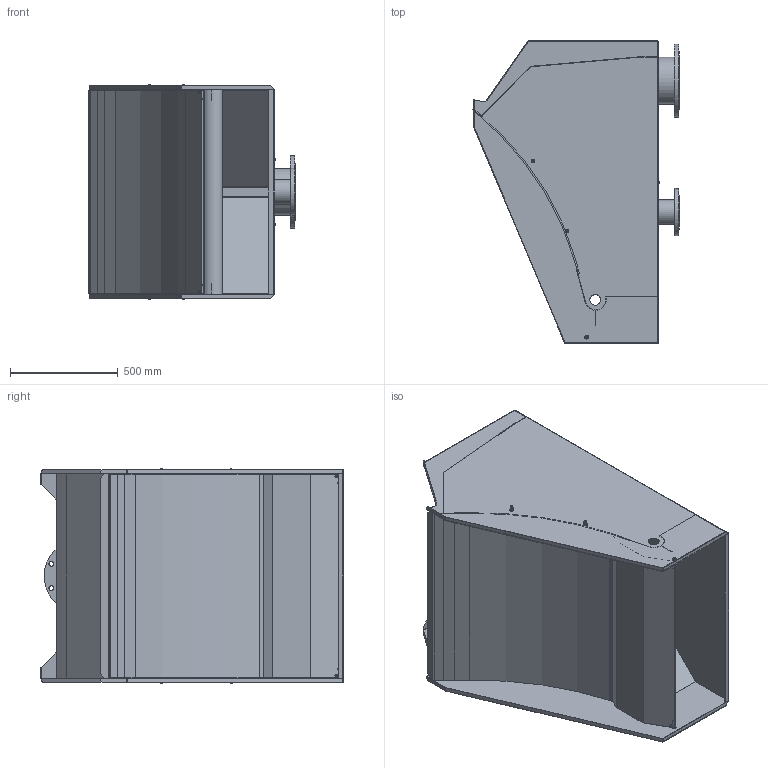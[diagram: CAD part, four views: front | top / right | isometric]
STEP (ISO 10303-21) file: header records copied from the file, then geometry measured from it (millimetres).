
FILE_DESCRIPTION(/* description */ (''),/* implementation_level */ '2;1');
FILE_NAME(/* name */ 'C:\Temp DWG\TS1000-1.stp',/* time_stamp */ '2016-04-05T15:22:03+02:00',/* author */ ('AO'),/* organization */ (''),/* preprocessor_version */ 'ST-DEVELOPER v15.6',/* originating_system */ 'Autodesk Inventor 2015',/* authorisation */ '');
FILE_SCHEMA (('AUTOMOTIVE_DESIGN { 1 0 10303 214 3 1 1 }'));
Products named in the file (1): TS1000-1
Bounding box: 958.53 x 1405 x 1003.4 mm (x, y, z)
Volume: 18287904.7 mm3; surface area: 13362759.6 mm2
Topology: 2 solids, 10 shells, 2815 faces, 7369 edges, 4870 vertices
Faces by surface type: plane 1727, bspline 773, cylinder 185, cone 118, torus 8, sphere 4
Full cylindrical faces by diameter (mm): 4 x4, 4.2 x4, 5.459 x6, 6 x10, 6.4 x8, 6.647 x4, 7 x6, 8 x6, 8.4 x4, 8.7 x6, 9 x4, 11 x4, 12 x10, 12.5 x6, 16 x8, 18 x10, 22 x8, 50 x2, 110.3 x1, 112 x1, 112.3 x1, 114.3 x1, 119 x1, 158 x1, 215.1 x1, 218 x1, 219.1 x1, 220 x1, 225 x1, 268 x1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
Entity records: 93246 total; most frequent: CARTESIAN_POINT 27637, ORIENTED_EDGE 14230, DIRECTION 9892, EDGE_CURVE 7100, VERTEX_POINT 4790, LINE 4750, VECTOR 4750, EDGE_LOOP 3399
